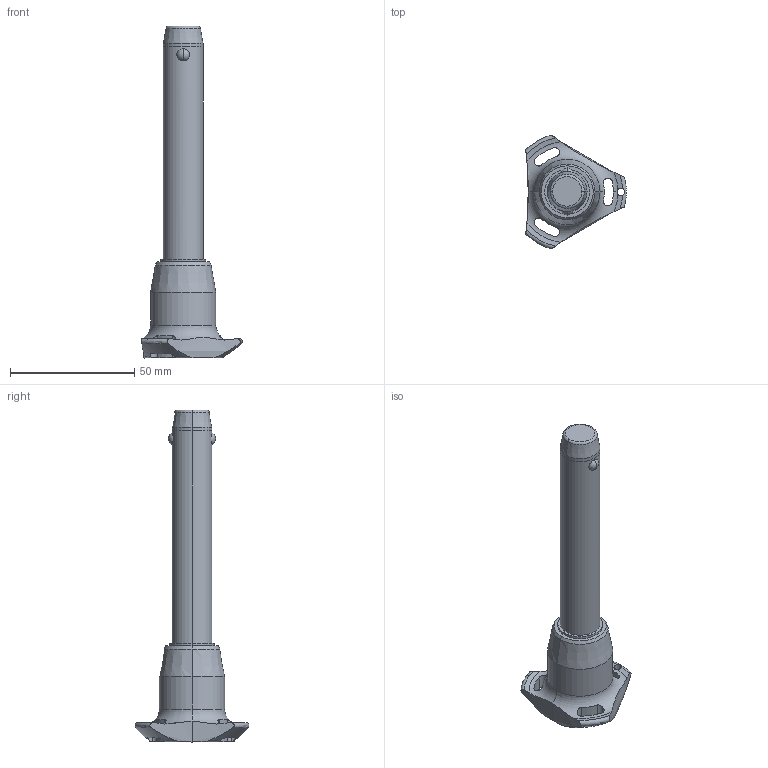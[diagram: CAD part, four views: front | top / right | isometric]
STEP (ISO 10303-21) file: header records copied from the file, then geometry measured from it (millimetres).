
FILE_DESCRIPTION (( 'STEP AP203' ), '1' );
FILE_NAME ('QR1726.M16-080-T.step', '2025-11-13T11:20:25', ( '' ), ( '' ), 'SwSTEP 2.0', 'SolidWorks 2019', '' );
FILE_SCHEMA (( 'CONFIG_CONTROL_DESIGN' ));
Length unit declared in the file: millimetre
Products named in the file (1): QR1726.M16-080-T
Bounding box: 40.5 x 45.88 x 133.7 mm (x, y, z)
Volume: 41180.9 mm3; surface area: 10680.1 mm2
Topology: 1 solids, 1 shells, 68 faces, 184 edges, 117 vertices
Faces by surface type: cylinder 32, cone 14, torus 11, sphere 6, plane 5
Entity records: 2950 total; most frequent: CARTESIAN_POINT 1194, ORIENTED_EDGE 368, DIRECTION 345, EDGE_CURVE 184, AXIS2_PLACEMENT_3D 154, VERTEX_POINT 117, CIRCLE 85, EDGE_LOOP 75
